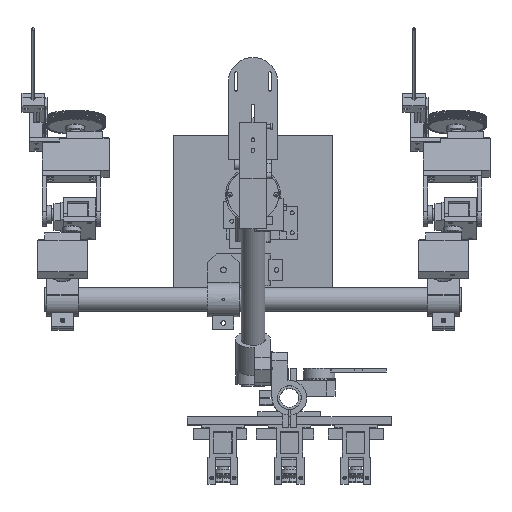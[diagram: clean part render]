
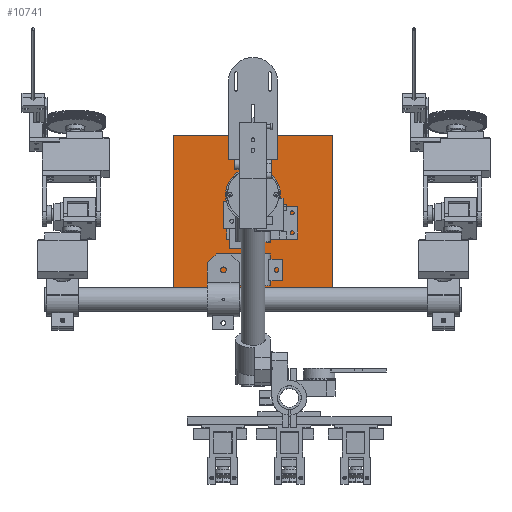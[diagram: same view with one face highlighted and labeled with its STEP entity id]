
A CAD part, top view. The second image highlights one B-rep face of the part: STEP entity #10741.
In plain terms, the highlighted planar face has unit normal (0, 0, 1).
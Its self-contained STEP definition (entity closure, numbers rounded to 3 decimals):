
#10427 = VERTEX_POINT('',#10428);
#10428 = CARTESIAN_POINT('',(-90.,-90.,66.));
#10435 = PLANE('',#10436);
#10436 = AXIS2_PLACEMENT_3D('',#10437,#10438,#10439);
#10437 = CARTESIAN_POINT('',(-90.,-90.,54.));
#10438 = DIRECTION('',(1.,0.,0.));
#10439 = DIRECTION('',(0.,0.,1.));
#10447 = PLANE('',#10448);
#10448 = AXIS2_PLACEMENT_3D('',#10449,#10450,#10451);
#10449 = CARTESIAN_POINT('',(-90.,-90.,54.));
#10450 = DIRECTION('',(0.,1.,0.));
#10451 = DIRECTION('',(0.,0.,1.));
#10488 = VERTEX_POINT('',#10489);
#10489 = CARTESIAN_POINT('',(-90.,90.,66.));
#10503 = PLANE('',#10504);
#10504 = AXIS2_PLACEMENT_3D('',#10505,#10506,#10507);
#10505 = CARTESIAN_POINT('',(-90.,90.,54.));
#10506 = DIRECTION('',(0.,1.,0.));
#10507 = DIRECTION('',(0.,0.,1.));
#10515 = EDGE_CURVE('',#10427,#10488,#10516,.T.);
#10516 = SURFACE_CURVE('',#10517,(#10521,#10528),.PCURVE_S1.);
#10517 = LINE('',#10518,#10519);
#10518 = CARTESIAN_POINT('',(-90.,-90.,66.));
#10519 = VECTOR('',#10520,1.);
#10520 = DIRECTION('',(0.,1.,0.));
#10521 = PCURVE('',#10435,#10522);
#10522 = DEFINITIONAL_REPRESENTATION('',(#10523),#10527);
#10523 = LINE('',#10524,#10525);
#10524 = CARTESIAN_POINT('',(12.,0.));
#10525 = VECTOR('',#10526,1.);
#10526 = DIRECTION('',(0.,-1.));
#10527 = ( GEOMETRIC_REPRESENTATION_CONTEXT(2) 
PARAMETRIC_REPRESENTATION_CONTEXT() REPRESENTATION_CONTEXT('2D SPACE',''
  ) );
#10528 = PCURVE('',#10529,#10534);
#10529 = PLANE('',#10530);
#10530 = AXIS2_PLACEMENT_3D('',#10531,#10532,#10533);
#10531 = CARTESIAN_POINT('',(-90.,-90.,66.));
#10532 = DIRECTION('',(0.,0.,1.));
#10533 = DIRECTION('',(1.,0.,0.));
#10534 = DEFINITIONAL_REPRESENTATION('',(#10535),#10539);
#10535 = LINE('',#10536,#10537);
#10536 = CARTESIAN_POINT('',(0.,0.));
#10537 = VECTOR('',#10538,1.);
#10538 = DIRECTION('',(0.,1.));
#10539 = ( GEOMETRIC_REPRESENTATION_CONTEXT(2) 
PARAMETRIC_REPRESENTATION_CONTEXT() REPRESENTATION_CONTEXT('2D SPACE',''
  ) );
#10547 = VERTEX_POINT('',#10548);
#10548 = CARTESIAN_POINT('',(90.,-90.,66.));
#10555 = PLANE('',#10556);
#10556 = AXIS2_PLACEMENT_3D('',#10557,#10558,#10559);
#10557 = CARTESIAN_POINT('',(90.,-90.,54.));
#10558 = DIRECTION('',(1.,0.,0.));
#10559 = DIRECTION('',(0.,0.,1.));
#10598 = VERTEX_POINT('',#10599);
#10599 = CARTESIAN_POINT('',(90.,90.,66.));
#10620 = EDGE_CURVE('',#10547,#10598,#10621,.T.);
#10621 = SURFACE_CURVE('',#10622,(#10626,#10633),.PCURVE_S1.);
#10622 = LINE('',#10623,#10624);
#10623 = CARTESIAN_POINT('',(90.,-90.,66.));
#10624 = VECTOR('',#10625,1.);
#10625 = DIRECTION('',(0.,1.,0.));
#10626 = PCURVE('',#10555,#10627);
#10627 = DEFINITIONAL_REPRESENTATION('',(#10628),#10632);
#10628 = LINE('',#10629,#10630);
#10629 = CARTESIAN_POINT('',(12.,0.));
#10630 = VECTOR('',#10631,1.);
#10631 = DIRECTION('',(0.,-1.));
#10632 = ( GEOMETRIC_REPRESENTATION_CONTEXT(2) 
PARAMETRIC_REPRESENTATION_CONTEXT() REPRESENTATION_CONTEXT('2D SPACE',''
  ) );
#10633 = PCURVE('',#10529,#10634);
#10634 = DEFINITIONAL_REPRESENTATION('',(#10635),#10639);
#10635 = LINE('',#10636,#10637);
#10636 = CARTESIAN_POINT('',(180.,0.));
#10637 = VECTOR('',#10638,1.);
#10638 = DIRECTION('',(0.,1.));
#10639 = ( GEOMETRIC_REPRESENTATION_CONTEXT(2) 
PARAMETRIC_REPRESENTATION_CONTEXT() REPRESENTATION_CONTEXT('2D SPACE',''
  ) );
#10666 = EDGE_CURVE('',#10427,#10547,#10667,.T.);
#10667 = SURFACE_CURVE('',#10668,(#10672,#10679),.PCURVE_S1.);
#10668 = LINE('',#10669,#10670);
#10669 = CARTESIAN_POINT('',(-90.,-90.,66.));
#10670 = VECTOR('',#10671,1.);
#10671 = DIRECTION('',(1.,0.,0.));
#10672 = PCURVE('',#10447,#10673);
#10673 = DEFINITIONAL_REPRESENTATION('',(#10674),#10678);
#10674 = LINE('',#10675,#10676);
#10675 = CARTESIAN_POINT('',(12.,0.));
#10676 = VECTOR('',#10677,1.);
#10677 = DIRECTION('',(0.,1.));
#10678 = ( GEOMETRIC_REPRESENTATION_CONTEXT(2) 
PARAMETRIC_REPRESENTATION_CONTEXT() REPRESENTATION_CONTEXT('2D SPACE',''
  ) );
#10679 = PCURVE('',#10529,#10680);
#10680 = DEFINITIONAL_REPRESENTATION('',(#10681),#10685);
#10681 = LINE('',#10682,#10683);
#10682 = CARTESIAN_POINT('',(0.,0.));
#10683 = VECTOR('',#10684,1.);
#10684 = DIRECTION('',(1.,0.));
#10685 = ( GEOMETRIC_REPRESENTATION_CONTEXT(2) 
PARAMETRIC_REPRESENTATION_CONTEXT() REPRESENTATION_CONTEXT('2D SPACE',''
  ) );
#10713 = EDGE_CURVE('',#10488,#10598,#10714,.T.);
#10714 = SURFACE_CURVE('',#10715,(#10719,#10726),.PCURVE_S1.);
#10715 = LINE('',#10716,#10717);
#10716 = CARTESIAN_POINT('',(-90.,90.,66.));
#10717 = VECTOR('',#10718,1.);
#10718 = DIRECTION('',(1.,0.,0.));
#10719 = PCURVE('',#10503,#10720);
#10720 = DEFINITIONAL_REPRESENTATION('',(#10721),#10725);
#10721 = LINE('',#10722,#10723);
#10722 = CARTESIAN_POINT('',(12.,0.));
#10723 = VECTOR('',#10724,1.);
#10724 = DIRECTION('',(0.,1.));
#10725 = ( GEOMETRIC_REPRESENTATION_CONTEXT(2) 
PARAMETRIC_REPRESENTATION_CONTEXT() REPRESENTATION_CONTEXT('2D SPACE',''
  ) );
#10726 = PCURVE('',#10529,#10727);
#10727 = DEFINITIONAL_REPRESENTATION('',(#10728),#10732);
#10728 = LINE('',#10729,#10730);
#10729 = CARTESIAN_POINT('',(0.,180.));
#10730 = VECTOR('',#10731,1.);
#10731 = DIRECTION('',(1.,0.));
#10732 = ( GEOMETRIC_REPRESENTATION_CONTEXT(2) 
PARAMETRIC_REPRESENTATION_CONTEXT() REPRESENTATION_CONTEXT('2D SPACE',''
  ) );
#10741 = ADVANCED_FACE('',(#10742),#10529,.T.);
#10742 = FACE_BOUND('',#10743,.T.);
#10743 = EDGE_LOOP('',(#10744,#10745,#10746,#10747));
#10744 = ORIENTED_EDGE('',*,*,#10515,.F.);
#10745 = ORIENTED_EDGE('',*,*,#10666,.T.);
#10746 = ORIENTED_EDGE('',*,*,#10620,.T.);
#10747 = ORIENTED_EDGE('',*,*,#10713,.F.);
